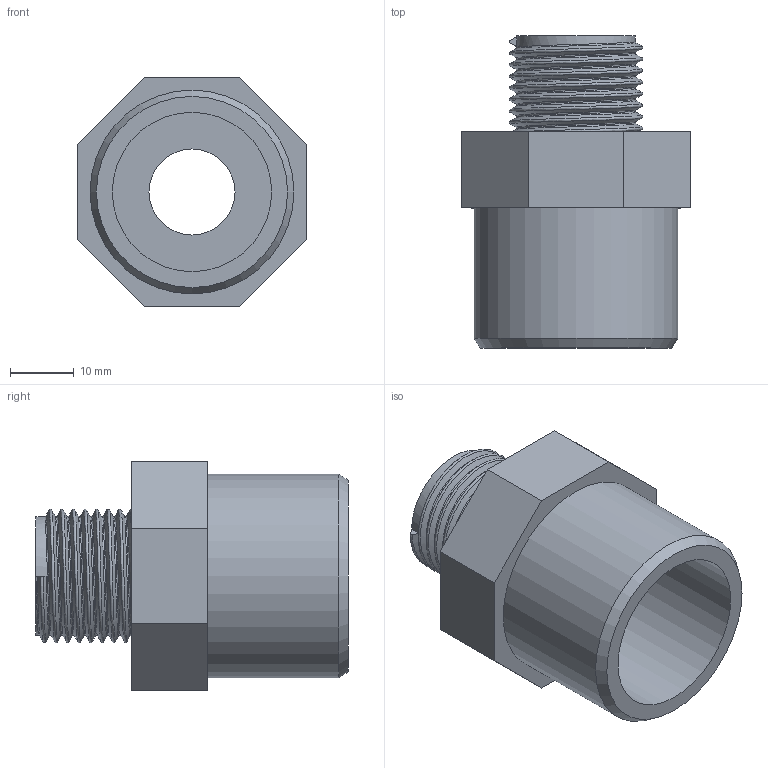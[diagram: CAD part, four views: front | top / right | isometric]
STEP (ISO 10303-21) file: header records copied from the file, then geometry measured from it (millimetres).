
FILE_DESCRIPTION(/* description */ ('PVC adattatore incollaggio-filettatura BSP maschio'),/* implementation_level */ '2;1');
FILE_NAME(/* name */ 'C:\Users\POLYPIPE\Desktop\DATASET INVENTOR\LIBRERIA EFFAST\RACCORDI 3DxWEB\RGR\3D_RGRAMG\3D_RGRAMG025B.stp',/* time_stamp */ '2018-01-19T17:34:40+01:00',/* author */ ('POLYPIPE'),/* organization */ ('Polypipe Italia s.r.l.'),/* preprocessor_version */ 'ST-DEVELOPER v16.1',/* originating_system */ 'Autodesk Inventor 2016',/* authorisation */ '');
FILE_SCHEMA (('CONFIG_CONTROL_DESIGN'));
Length unit declared in the file: millimetre
Products named in the file (1): 3D_RGRAMG
Bounding box: 36 x 49 x 36 mm (x, y, z)
Volume: 21013.5 mm3; surface area: 9780.4 mm2
Topology: 1 solids, 1 shells, 26 faces, 56 edges, 36 vertices
Faces by surface type: plane 15, cylinder 5, bspline 5, cone 1
Full cylindrical faces by diameter (mm): 13.5 x1, 14.5 x1, 18.631 x1, 25 x1, 32 x1
Entity records: 3695 total; most frequent: CARTESIAN_POINT 3142, ORIENTED_EDGE 102, DIRECTION 97, EDGE_CURVE 51, EDGE_LOOP 37, VERTEX_POINT 36, AXIS2_PLACEMENT_3D 35, LINE 27
